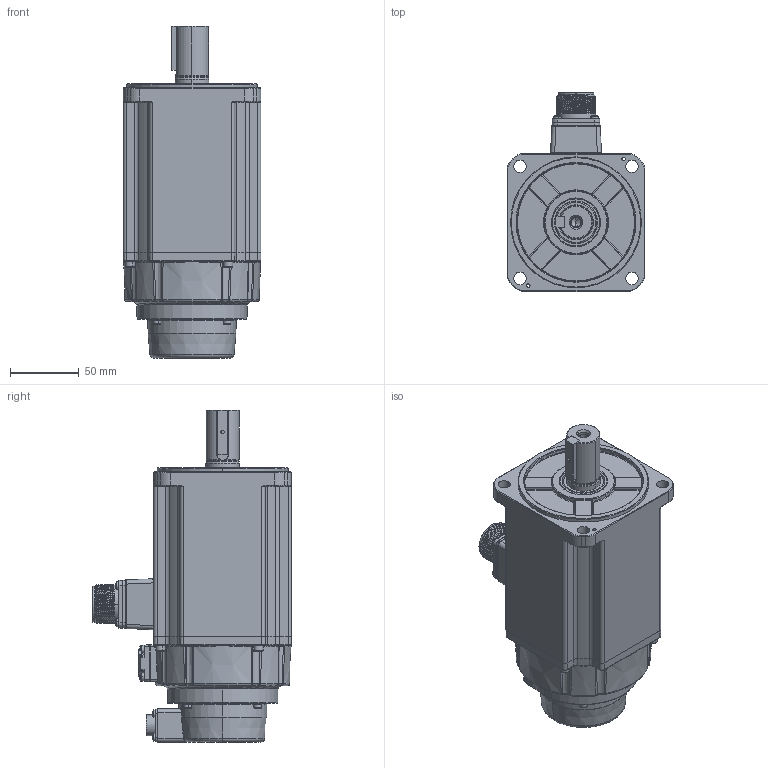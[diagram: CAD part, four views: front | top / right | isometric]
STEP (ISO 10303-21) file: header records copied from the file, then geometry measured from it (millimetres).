
FILE_DESCRIPTION (( 'STEP AP214' ), '1' );
FILE_NAME ('RSK1-S-100-2kw-B.STEP', '2024-08-22T06:49:35', ( '' ), ( '' ), 'SwSTEP 2.0', 'SolidWorks 2020', '' );
FILE_SCHEMA (( 'AUTOMOTIVE_DESIGN' ));
Length unit declared in the file: millimetre
Products named in the file (15): 130雄薯瑤脣價釱; RSK1-S-100-2kw-B; 内六角圆柱头螺钉_M4x16; 惕掅雄薯瑤脣; 坋趼羞攫芛蹟隊_M3x30; 130梓袧綴裔; 蚐猾_TC25x35x5; 130秶雄ん盄揤裔; 100-S-2kw儂褲; 100-惕掅綴傷裔; 100-S-24粣噤; す瑩_B8x7x32; 4140000005_电机内部编码器线_7x26AWG(0.1m-CMV1-10芯螺纹插座_GACJ3045); 内六角圆柱头和平垫圈组合螺钉_M3x16; ﾊｮﾗﾖｲﾛﾅﾌﾍｷﾗﾔｼｷﾂﾝｶ､_M3x8
Assembly tree (30 placements, depth 2):
  RSK1-S-100-2kw-B
    100-S-2kw儂褲
    100-惕掅綴傷裔
    坋趼羞攫芛蹟隊_M3x30  x8
    130雄薯瑤脣價釱
    惕掅雄薯瑤脣
    内六角圆柱头螺钉_M4x16  x4
    130梓袧綴裔
    4140000005_电机内部编码器线_7x26AWG(0.1m-CMV1-10芯螺纹插座_GACJ3045)
    ﾊｮﾗﾖｲﾛﾅﾌﾍｷﾗﾔｼｷﾂﾝｶ､_M3x8  x4
    内六角圆柱头和平垫圈组合螺钉_M3x16  x4
    100-S-24粣噤
    す瑩_B8x7x32
    蚐猾_TC25x35x5
    130秶雄ん盄揤裔
Bounding box: 100 x 144.4 x 241 mm (x, y, z)
Volume: 1554816.7 mm3; surface area: 161368.8 mm2
Topology: 33 solids, 35 shells, 3146 faces, 7763 edges, 4844 vertices
Faces by surface type: plane 1461, cylinder 769, cone 323, torus 269, bspline 248, sphere 76
Entity records: 109047 total; most frequent: CARTESIAN_POINT 28905, ORIENTED_EDGE 13310, DIRECTION 13208, EDGE_CURVE 6655, AXIS2_PLACEMENT_3D 4729, VERTEX_POINT 4170, VECTOR 3750, LINE 3750
